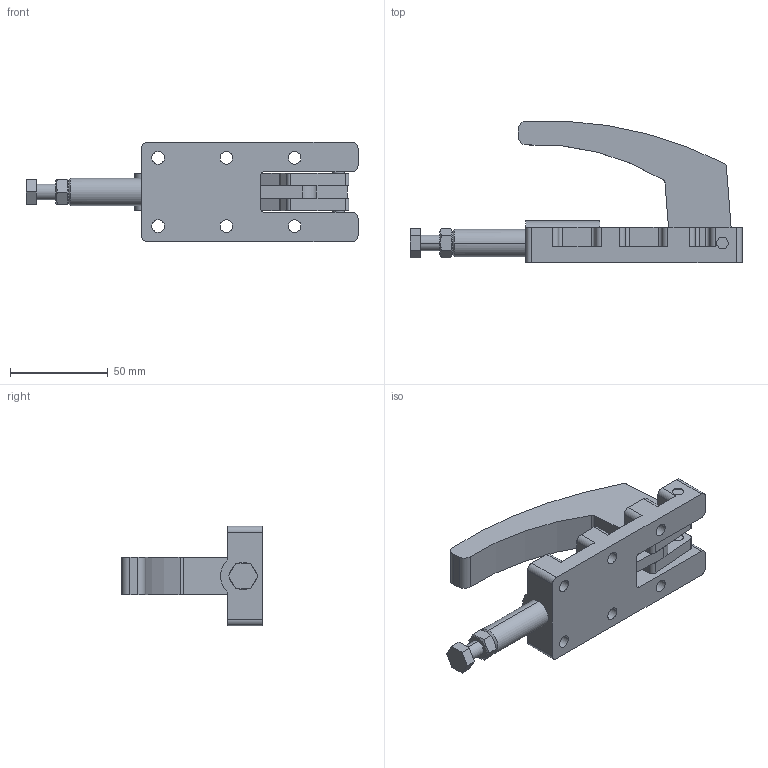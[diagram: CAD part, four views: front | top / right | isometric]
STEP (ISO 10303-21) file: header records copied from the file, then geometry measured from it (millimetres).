
FILE_DESCRIPTION (( 'STEP AP203' ), '1' );
FILE_NAME ('KF-405.STEP', '2011-05-18T18:42:42', ( 'Usuario' ), ( '' ), 'SwSTEP 2.0', 'SolidWorks 2011', '' );
FILE_SCHEMA (( 'CONFIG_CONTROL_DESIGN' ));
Length unit declared in the file: millimetre
Products named in the file (11): KF-405; PP-M8; 12.50008; 11.50002; 16.20062; 06.50019; 06.50031; 08.10005; 01.30001; 03.20043; 02.30014
Assembly tree (11 placements, depth 3):
  KF-405
    01.30001
    16.20062  x2
    02.30014
    PP-M8
      11.50002
      12.50008
    03.20043
    06.50019
    08.10005
    06.50031
Bounding box: 170.22 x 72.44 x 51 mm (x, y, z)
Volume: 126341.1 mm3; surface area: 46320.3 mm2
Topology: 10 solids, 10 shells, 226 faces, 584 edges, 380 vertices
Faces by surface type: cylinder 113, plane 88, cone 25
Entity records: 8210 total; most frequent: CARTESIAN_POINT 1434, DIRECTION 1241, ORIENTED_EDGE 1124, EDGE_CURVE 562, AXIS2_PLACEMENT_3D 471, VERTEX_POINT 370, LINE 299, VECTOR 299
